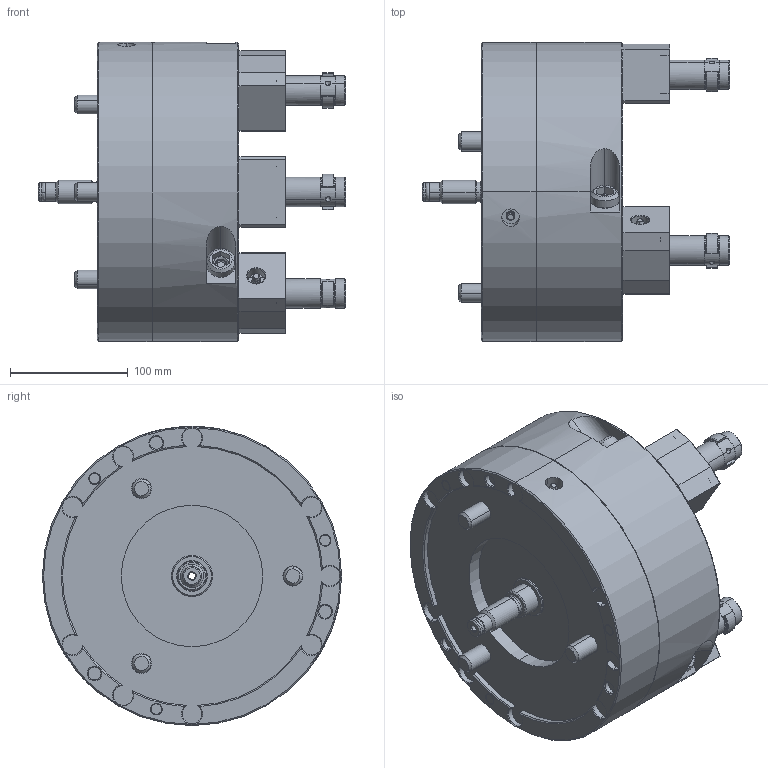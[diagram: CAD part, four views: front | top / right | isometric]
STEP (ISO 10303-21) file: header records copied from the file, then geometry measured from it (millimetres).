
FILE_DESCRIPTION (( 'STEP AP214' ), '1' );
FILE_NAME ('FG10_UC.STEP', '2019-11-22T01:09:31', ( '' ), ( '' ), 'SwSTEP 2.0', 'SolidWorks 2017', '' );
FILE_SCHEMA (( 'AUTOMOTIVE_DESIGN' ));
Length unit declared in the file: millimetre
Products named in the file (2): 結合; FG10_UC
Assembly tree (1 placements, depth 2):
  FG10_UC
    結合
Bounding box: 261 x 254 x 254 mm (x, y, z)
Volume: 6099254.3 mm3; surface area: 329711.8 mm2
Topology: 3 solids, 24 shells, 1817 faces, 4409 edges, 2710 vertices
Faces by surface type: plane 741, cone 459, cylinder 407, torus 118, bspline 92
Entity records: 59087 total; most frequent: CARTESIAN_POINT 17255, ORIENTED_EDGE 8710, DIRECTION 8533, EDGE_CURVE 4355, AXIS2_PLACEMENT_3D 3266, VERTEX_POINT 2710, VECTOR 2001, LINE 2001
